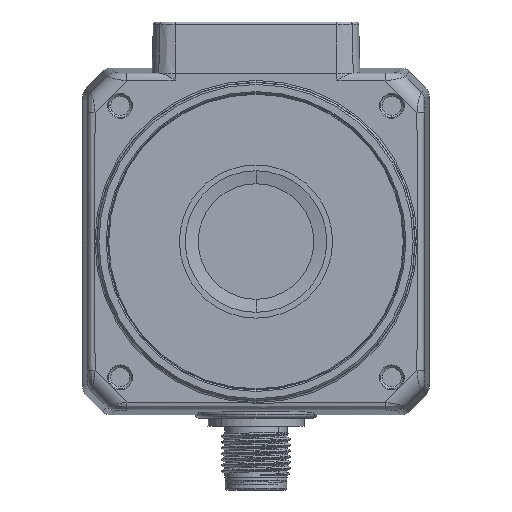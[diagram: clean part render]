
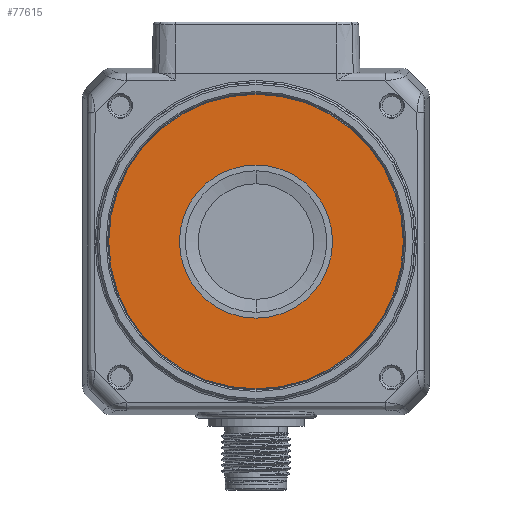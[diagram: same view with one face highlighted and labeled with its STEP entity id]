
A CAD part, front view. The second image highlights one B-rep face of the part: STEP entity #77615.
In plain terms, the highlighted planar face has unit normal (0, -1, 0) as drawn and (1, 0, 0) by its records, which use the part's own axes.
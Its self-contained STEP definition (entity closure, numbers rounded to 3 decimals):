
#77441=CARTESIAN_POINT('',(-2.5,0.,0.));
#77442=DIRECTION('',(1.,0.,0.));
#77443=DIRECTION('',(0.,1.,0.));
#77444=AXIS2_PLACEMENT_3D('',#77441,#77442,#77443);
#77449=CARTESIAN_POINT('',(-2.5,0.,0.));
#77450=DIRECTION('',(1.,0.,0.));
#77451=DIRECTION('',(0.,0.,-1.));
#77452=AXIS2_PLACEMENT_3D('',#77449,#77450,#77451);
#77457=CARTESIAN_POINT('',(-2.5,0.,0.));
#77458=DIRECTION('',(1.,0.,0.));
#77459=DIRECTION('',(0.,0.,1.));
#77460=AXIS2_PLACEMENT_3D('',#77457,#77458,#77459);
#77465=CARTESIAN_POINT('',(-2.5,0.,0.));
#77466=DIRECTION('',(-1.,0.,0.));
#77467=DIRECTION('',(0.,1.,0.));
#77468=AXIS2_PLACEMENT_3D('',#77465,#77466,#77467);
#77473=CARTESIAN_POINT('',(-2.5,0.,0.));
#77474=DIRECTION('',(-1.,0.,0.));
#77475=DIRECTION('',(0.,0.,1.));
#77476=AXIS2_PLACEMENT_3D('',#77473,#77474,#77475);
#77481=CARTESIAN_POINT('',(-2.5,0.,0.));
#77482=DIRECTION('',(-1.,0.,0.));
#77483=DIRECTION('',(0.,-1.,0.));
#77484=AXIS2_PLACEMENT_3D('',#77481,#77482,#77483);
#77489=CARTESIAN_POINT('',(-2.5,0.,0.));
#77490=DIRECTION('',(-1.,0.,0.));
#77491=DIRECTION('',(0.,0.,-1.));
#77492=AXIS2_PLACEMENT_3D('',#77489,#77490,#77491);
#77512=CARTESIAN_POINT('',(-2.5,0.,-25.5));
#77514=VERTEX_POINT('',#77512);
#77516=CARTESIAN_POINT('',(-2.5,0.,25.5));
#77518=VERTEX_POINT('',#77516);
#77521=CARTESIAN_POINT('',(-2.5,25.5,0.));
#77522=VERTEX_POINT('',#77521);
#77526=CARTESIAN_POINT('',(-2.5,0.,12.));
#77528=VERTEX_POINT('',#77526);
#77530=CARTESIAN_POINT('',(-2.5,0.,-12.));
#77532=VERTEX_POINT('',#77530);
#77535=CARTESIAN_POINT('',(-2.5,12.,0.));
#77536=VERTEX_POINT('',#77535);
#77537=CARTESIAN_POINT('',(-2.5,-12.,0.));
#77538=VERTEX_POINT('',#77537);
#77595=CARTESIAN_POINT('',(-2.5,0.,0.));
#77596=DIRECTION('',(-1.,0.,0.));
#77597=DIRECTION('',(0.,0.,1.));
#77598=AXIS2_PLACEMENT_3D('',#77595,#77596,#77597);
#77599=PLANE('',#77598);
#77600=ORIENTED_EDGE('',*,*,#77552,.F.);
#77601=ORIENTED_EDGE('',*,*,#77550,.F.);
#77602=ORIENTED_EDGE('',*,*,#77588,.F.);
#77603=EDGE_LOOP('',(#77600,#77601,#77602));
#77604=FACE_OUTER_BOUND('',#77603,.F.);
#77606=ORIENTED_EDGE('',*,*,#77605,.F.);
#77608=ORIENTED_EDGE('',*,*,#77607,.F.);
#77610=ORIENTED_EDGE('',*,*,#77609,.F.);
#77612=ORIENTED_EDGE('',*,*,#77611,.F.);
#77613=EDGE_LOOP('',(#77606,#77608,#77610,#77612));
#77614=FACE_BOUND('',#77613,.F.);
#77445=CIRCLE('',#77444,25.5);
#77453=CIRCLE('',#77452,25.5);
#77461=CIRCLE('',#77460,25.5);
#77469=CIRCLE('',#77468,12.);
#77477=CIRCLE('',#77476,12.);
#77485=CIRCLE('',#77484,12.);
#77493=CIRCLE('',#77492,12.);
#77550=EDGE_CURVE('',#77514,#77522,#77453,.T.);
#77552=EDGE_CURVE('',#77522,#77518,#77445,.T.);
#77588=EDGE_CURVE('',#77518,#77514,#77461,.T.);
#77605=EDGE_CURVE('',#77536,#77532,#77469,.T.);
#77607=EDGE_CURVE('',#77528,#77536,#77477,.T.);
#77609=EDGE_CURVE('',#77538,#77528,#77485,.T.);
#77611=EDGE_CURVE('',#77532,#77538,#77493,.T.);
#77615=ADVANCED_FACE('',(#77604,#77614),#77599,.F.);
